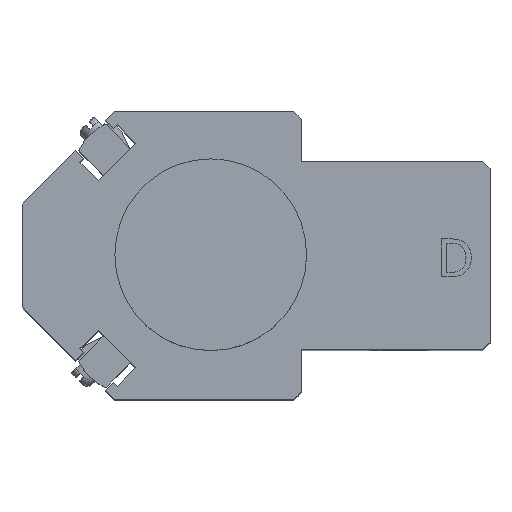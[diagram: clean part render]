
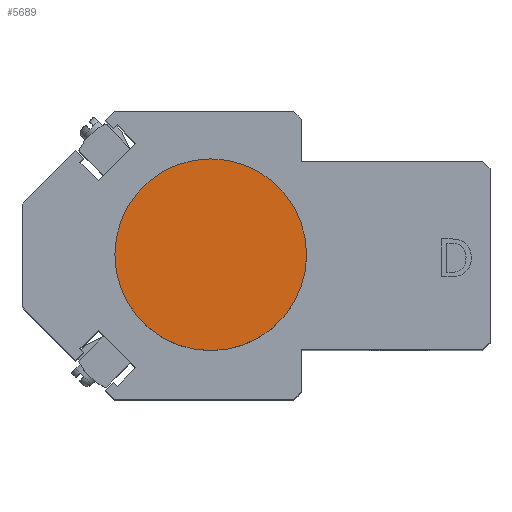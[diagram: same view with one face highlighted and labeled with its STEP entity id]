
A CAD part, top view. The second image highlights one B-rep face of the part: STEP entity #5689.
In plain terms, the highlighted planar face has unit normal (0, 0, 1) as drawn and (1, 0, 0) by its records, which use the part's own axes.
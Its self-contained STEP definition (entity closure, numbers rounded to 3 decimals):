
#499=PLANE('',#6499);
#786=FACE_OUTER_BOUND('',#1126,.T.);
#1126=EDGE_LOOP('',(#5274,#5275));
#2378=CIRCLE('',#6500,12.7);
#2379=CIRCLE('',#6501,12.7);
#2923=VERTEX_POINT('',#9972);
#2924=VERTEX_POINT('',#9973);
#3714=EDGE_CURVE('',#2923,#2924,#2378,.T.);
#3715=EDGE_CURVE('',#2924,#2923,#2379,.T.);
#5274=ORIENTED_EDGE('',*,*,#3714,.F.);
#5275=ORIENTED_EDGE('',*,*,#3715,.F.);
#5689=ADVANCED_FACE('',(#786),#499,.T.);
#6499=AXIS2_PLACEMENT_3D('',#9971,#8084,#8085);
#6500=AXIS2_PLACEMENT_3D('',#9974,#8086,#8087);
#6501=AXIS2_PLACEMENT_3D('',#9975,#8088,#8089);
#8084=DIRECTION('center_axis',(1.,0.,0.));
#8085=DIRECTION('ref_axis',(0.,0.,-1.));
#8086=DIRECTION('center_axis',(-1.,0.,0.));
#8087=DIRECTION('ref_axis',(0.,-1.,0.));
#8088=DIRECTION('center_axis',(-1.,0.,0.));
#8089=DIRECTION('ref_axis',(0.,-1.,0.));
#9971=CARTESIAN_POINT('Origin',(13.,-6.35,0.));
#9972=CARTESIAN_POINT('',(13.,-12.7,0.));
#9973=CARTESIAN_POINT('',(13.,12.7,0.));
#9974=CARTESIAN_POINT('Origin',(13.,0.,0.));
#9975=CARTESIAN_POINT('Origin',(13.,0.,0.));
